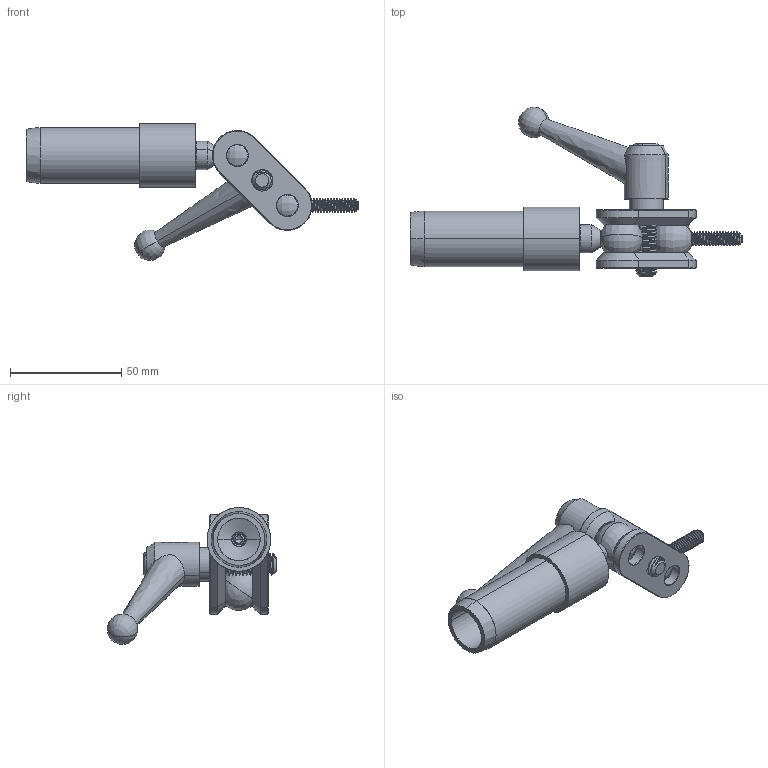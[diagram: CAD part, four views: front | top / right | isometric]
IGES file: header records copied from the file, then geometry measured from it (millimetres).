
Start section: SolidWorks IGES file using analytic representation for surfaces
Global section: file name: \\SERVER3\Design\_New Design Drive Folder List\_Design Vault\AAI\Modular Round Tube Connectors\Solidworks Models\STP Files\12202013\1.000 Inch Modular Connectors\Assemblies\1 Inch Adjustable Swivel Mount Connector.IGS; native system: SolidWorks 2013; preprocessor: SolidWorks 2013; author: tbraun; date: 140110.113920; units: inch
Bounding box: 149.03 x 76.2 x 61.41 mm (x, y, z)
Surface area: 29427.5 mm2 (no closed solid volume)
Topology: 0 solids, 0 shells, 466 faces, 8038 edges, 8023 vertices
Faces by surface type: revolution 335, bspline 131
